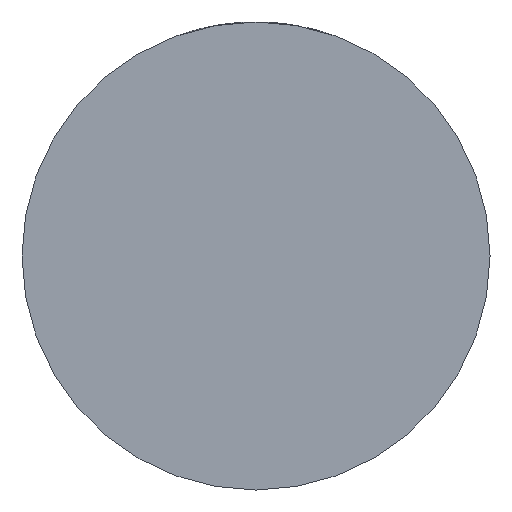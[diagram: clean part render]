
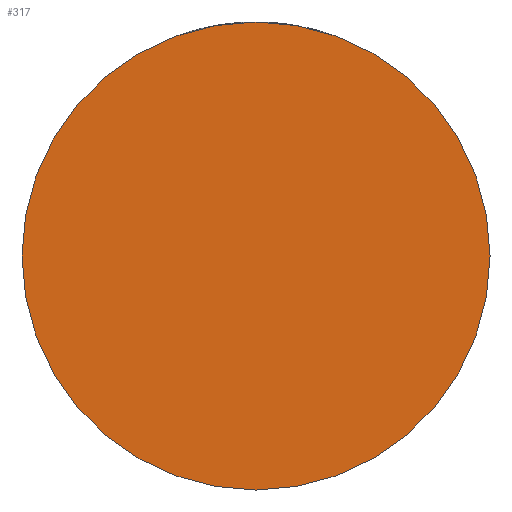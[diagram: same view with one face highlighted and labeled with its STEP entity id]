
A CAD part, front view. The second image highlights one B-rep face of the part: STEP entity #317.
In plain terms, the highlighted planar face has unit normal (0, -1, 0).
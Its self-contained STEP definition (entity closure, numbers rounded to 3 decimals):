
#232 = AXIS2_PLACEMENT_3D ( 'NONE', #2072, #4080, #1405 ) ;
#317 = ADVANCED_FACE ( 'NONE', ( #1114 ), #727, .T. ) ;
#388 = DIRECTION ( 'NONE',  ( 0., -1., 0. ) ) ;
#585 = EDGE_CURVE ( 'NONE', #3281, #3785, #731, .T. ) ;
#727 = PLANE ( 'NONE',  #232 ) ;
#731 = CIRCLE ( 'NONE', #3126, 32.5 ) ;
#787 = DIRECTION ( 'NONE',  ( 1., 0., 0. ) ) ;
#1070 = EDGE_LOOP ( 'NONE', ( #4158, #2677 ) ) ;
#1114 = FACE_OUTER_BOUND ( 'NONE', #1070, .T. ) ;
#1167 = AXIS2_PLACEMENT_3D ( 'NONE', #1445, #2044, #787 ) ;
#1405 = DIRECTION ( 'NONE',  ( 1., 0., 0. ) ) ;
#1441 = CARTESIAN_POINT ( 'NONE',  ( -32.5, -26., 0. ) ) ;
#1445 = CARTESIAN_POINT ( 'NONE',  ( 0., -26., 0. ) ) ;
#1701 = CARTESIAN_POINT ( 'NONE',  ( 0., -26., 0. ) ) ;
#1946 = CARTESIAN_POINT ( 'NONE',  ( 32.5, -26., 0. ) ) ;
#2044 = DIRECTION ( 'NONE',  ( 0., -1., 0. ) ) ;
#2072 = CARTESIAN_POINT ( 'NONE',  ( 0., -26., 0. ) ) ;
#2407 = DIRECTION ( 'NONE',  ( 1., 0., 0. ) ) ;
#2537 = CIRCLE ( 'NONE', #1167, 32.5 ) ;
#2677 = ORIENTED_EDGE ( 'NONE', *, *, #2975, .T. ) ;
#2975 = EDGE_CURVE ( 'NONE', #3785, #3281, #2537, .T. ) ;
#3126 = AXIS2_PLACEMENT_3D ( 'NONE', #1701, #388, #2407 ) ;
#3281 = VERTEX_POINT ( 'NONE', #1441 ) ;
#3785 = VERTEX_POINT ( 'NONE', #1946 ) ;
#4080 = DIRECTION ( 'NONE',  ( 0., -1., 0. ) ) ;
#4158 = ORIENTED_EDGE ( 'NONE', *, *, #585, .T. ) ;
